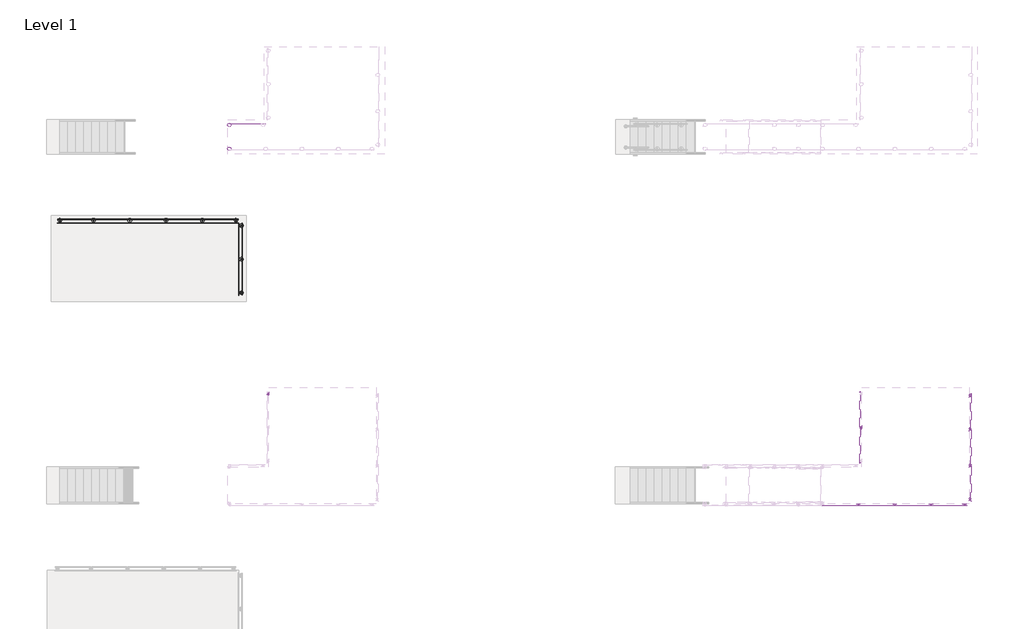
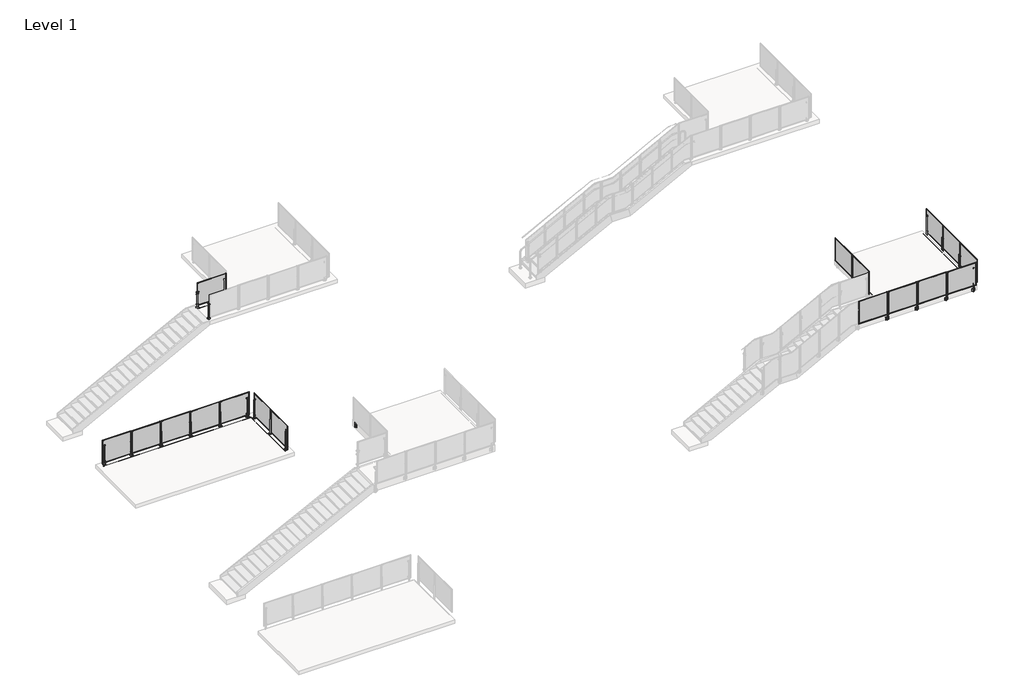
# One storey, part 21 of 28: 10 proxies, 6 railings.
"""IFC4 building model written with IfcOpenShell, lengths in millimetres."""

from ifc_helpers import new_model, si_unit, point, frame, frame_2d, origin, origin_with_axes, place, context, project, spatial, polyline, circle_curve, trimmed, segment, composite_curve, outline, extrude, transform, mapped, element, save
from components import building_element_proxy_d74b3768, building_element_proxy_f0dd287b, building_element_proxy_bc1e0d3e, building_element_proxy_bd17ef1f, building_element_proxy_5b57b0b3, building_element_proxy_1b4bb758

model = new_model("IFC4")

# Units and contexts
model_context = context("Model", 3, world=origin())
ifc_project = project(units=[si_unit("LENGTHUNIT", "METRE", prefix="MILLI")], contexts=[model_context])

# Site, building, storey
site = spatial("IfcSite", under=ifc_project)
building = spatial("IfcBuilding", under=site)
storey = spatial("IfcBuildingStorey", under=building, Name="Level 1", Elevation=0.0)

# Proxies
placement = place(None, origin())
building_element_proxy_shape = building_element_proxy_d74b3768(model_context)
element("IfcBuildingElementProxy", 1, Name="Baluster-End-Post-VIVA-STRUC-Top Mount : CORED INTO CONCRETE_TOP MOUNT STRUC_STRAIGHT", ObjectType="Baluster-End-Post-VIVA-STRUC-Top Mount : CORED INTO CONCRETE_TOP MOUNT STRUC_STRAIGHT", at=placement, inside=storey, context=model_context, shape_type="MappedRepresentation", body=[
    mapped(building_element_proxy_shape, transform((-32689.643347, 5915.4866335, -0.508), x_axis=(-1.0, 0.0, 0.0), y_axis=(0.0, -1.0, 0.0), z_axis=(0.0, 0.0, 1.0))),
])
building_element_proxy_2_shape = building_element_proxy_f0dd287b(model_context)
element("IfcBuildingElementProxy", 2, Name="Baluster-End-Post-VIVA-STRUC-Top Mount : WELDED Fascia MOUNT STRUC_STRAIGHT", ObjectType="Baluster-End-Post-VIVA-STRUC-Top Mount : WELDED Fascia MOUNT STRUC_STRAIGHT", at=placement, inside=storey, context=model_context, shape_type="MappedRepresentation", body=[
    mapped(building_element_proxy_2_shape, transform((-31563.4049728, 33.6273492, 3047.492), x_axis=(0.0, -1.0, 0.0), y_axis=(1.0, 0.0, 0.0), z_axis=(0.0, 0.0, 1.0))),
])
element("IfcBuildingElementProxy", 3, Name="Baluster-End-Post-VIVA-STRUC-Top Mount : WELDED Fascia MOUNT STRUC_STRAIGHT", ObjectType="Baluster-End-Post-VIVA-STRUC-Top Mount : WELDED Fascia MOUNT STRUC_STRAIGHT", at=placement, inside=storey, context=model_context, shape_type="MappedRepresentation", body=[
    mapped(building_element_proxy_2_shape, transform((-7225.1100036, -3846.7140523, 3047.492), x_axis=(0.0, 1.0, 0.0), y_axis=(-1.0, 0.0, 0.0), z_axis=(0.0, 0.0, 1.0))),
])
building_element_proxy_3_shape = building_element_proxy_bc1e0d3e(model_context)
element("IfcBuildingElementProxy", 4, Name="Baluster-End-Post-VIVA-STRUC-Top Mount : CORED INTO CONCRETE_TOP MOUNT STRUC_STRAIGHT", ObjectType="Baluster-End-Post-VIVA-STRUC-Top Mount : CORED INTO CONCRETE_TOP MOUNT STRUC_STRAIGHT", at=placement, inside=storey, context=model_context, shape_type="MappedRepresentation", body=[
    mapped(building_element_proxy_3_shape, transform((-32693.4518242, 5919.2344262, -0.508), x_axis=(0.0, 1.0, 0.0), y_axis=(-1.0, 0.0, 0.0), z_axis=(0.0, 0.0, 1.0))),
])
element("IfcBuildingElementProxy", 5, Name="Baluster-End-Post-VIVA-STRUC-Top Mount : CORED INTO CONCRETE_TOP MOUNT STRUC_STRAIGHT", ObjectType="Baluster-End-Post-VIVA-STRUC-Top Mount : CORED INTO CONCRETE_TOP MOUNT STRUC_STRAIGHT", at=placement, inside=storey, context=model_context, shape_type="MappedRepresentation", body=[
    mapped(building_element_proxy_shape, transform((-32693.4518242, 3379.2344262, -0.508), x_axis=(0.0, 1.0, 0.0), y_axis=(-1.0, 0.0, 0.0), z_axis=(0.0, 0.0, 1.0))),
])
element("IfcBuildingElementProxy", 6, Name="Baluster-End-Post-VIVA-STRUC-Top Mount : CORED INTO CONCRETE_TOP MOUNT STRUC_STRAIGHT", ObjectType="Baluster-End-Post-VIVA-STRUC-Top Mount : CORED INTO CONCRETE_TOP MOUNT STRUC_STRAIGHT", at=placement, inside=storey, context=model_context, shape_type="MappedRepresentation", body=[
    mapped(building_element_proxy_3_shape, transform((-39039.643347, 5915.4866335, -0.508), x_axis=(-1.0, 0.0, 0.0), y_axis=(0.0, -1.0, 0.0), z_axis=(0.0, 0.0, 1.0))),
])
building_element_proxy_4_shape = building_element_proxy_bd17ef1f(model_context)
element("IfcBuildingElementProxy", 7, Name="Baluster-End-Post-VIVA-STRUC-Top Mount : WELDED Fascia MOUNT STRUC_STRAIGHT", ObjectType="Baluster-End-Post-VIVA-STRUC-Top Mount : WELDED Fascia MOUNT STRUC_STRAIGHT", at=placement, inside=storey, context=model_context, shape_type="MappedRepresentation", body=[
    mapped(building_element_proxy_4_shape, transform((-7225.1100036, -36.7140523, 3047.492), x_axis=(0.0, 1.0, 0.0), y_axis=(-1.0, 0.0, 0.0), z_axis=(0.0, 0.0, 1.0))),
])
element("IfcBuildingElementProxy", 8, Name="Baluster-End-Post-VIVA-STRUC-Top Mount : WELDED Fascia MOUNT STRUC_STRAIGHT", ObjectType="Baluster-End-Post-VIVA-STRUC-Top Mount : WELDED Fascia MOUNT STRUC_STRAIGHT", at=placement, inside=storey, context=model_context, shape_type="MappedRepresentation", body=[
    mapped(building_element_proxy_4_shape, transform((-7209.7434339, -3841.1050112, 3047.492), x_axis=(1.0, 0.0, 0.0), y_axis=(0.0, 1.0, 0.0), z_axis=(0.0, 0.0, 1.0))),
])
building_element_proxy_5_shape = building_element_proxy_5b57b0b3(model_context)
element("IfcBuildingElementProxy", 9, Name="Baluster-End-Post-VIVA-STRUC-Top Mount-Stair : CORED INTO CONCRETE_TOP MOUNT STRUC_STAIR", ObjectType="Baluster-End-Post-VIVA-STRUC-Top Mount-Stair : CORED INTO CONCRETE_TOP MOUNT STRUC_STAIR", at=placement, inside=storey, context=model_context, shape_type="MappedRepresentation", body=[
    mapped(building_element_proxy_5_shape, transform((-33016.8813244, 8604.7301722, 3556.635), x_axis=(1.0, 0.0, 0.0), y_axis=(0.0, 1.0, 0.0), z_axis=(0.0, 0.0, 1.0))),
])
building_element_proxy_6_shape = building_element_proxy_1b4bb758(model_context)
element("IfcBuildingElementProxy", 10, Name="Baluster-End-Post-VIVA-STRUC-Top Mount-Stair : CORED INTO CONCRETE_TOP MOUNT STRUC_STAIR", ObjectType="Baluster-End-Post-VIVA-STRUC-Top Mount-Stair : CORED INTO CONCRETE_TOP MOUNT STRUC_STAIR", at=placement, inside=storey, context=model_context, shape_type="MappedRepresentation", body=[
    mapped(building_element_proxy_6_shape, transform((-33016.8813244, 9247.6573722, 3556.635), x_axis=(-1.0, 0.0, 0.0), y_axis=(0.0, -1.0, 0.0), z_axis=(0.0, 0.0, 1.0))),
])

# Railings
element("IfcRailing", 11, ObjectType="Metal-Panel-VIVA-STRUC-Top_Core-Straight", at=placement, inside=storey, context=model_context, shape_type="SweptSolid", body=[
    extrude(outline(composite_curve([segment(trimmed(circle_curve(frame_2d((-0.254, -32693.4518242)), 0.254), [point((-0.254, -32693.7058242))], [point((-0.254, -32693.1978242))], False, "CARTESIAN"), True, "CONTINUOUS"), segment(trimmed(circle_curve(frame_2d((-0.254, -32693.4518242)), 0.254), [point((-0.254, -32693.1978242))], [point((-0.254, -32693.7058242))], False, "CARTESIAN"), True, "CONTINUOUS")], self_intersect=False)), frame((0.0, 3379.2344262, 0.0), z_axis=(0.0, 1.0, 0.0), x_axis=(0.0, 0.0, 1.0)), (0.0, 0.0, 1.0), 2540.0),
    extrude(outline(composite_curve([segment(trimmed(circle_curve(frame_2d((-0.254, -32693.4518242)), 0.254), [point((-0.254, -32693.7058242))], [point((-0.254, -32693.1978242))], False, "CARTESIAN"), True, "CONTINUOUS"), segment(trimmed(circle_curve(frame_2d((-0.254, -32693.4518242)), 0.254), [point((-0.254, -32693.1978242))], [point((-0.254, -32693.7058242))], False, "CARTESIAN"), True, "CONTINUOUS")], self_intersect=False)), frame((0.0, 3379.2344262, 0.0), z_axis=(0.0, 1.0, 0.0), x_axis=(0.0, 0.0, 1.0)), (0.0, 0.0, 1.0), 2540.0),
    extrude(outline(polyline([(-32566.6028242, 4608.4079693), (-32566.6028242, 3420.0608831), (-32569.6028242, 3420.0608831), (-32569.6028242, 4608.4079693), (-32566.6028242, 4608.4079693)])), frame((0.0, 0.0, 76.1959569), z_axis=(0.0, 0.0, 1.0), x_axis=(1.0, 0.0, 0.0)), (0.0, 0.0, 1.0), 990.5826861),
    extrude(outline(polyline([(4633.8079693, 1092.1786431), (4633.8079693, 50.7959569), (3394.6608831, 50.7959569), (3394.6608831, 1092.1786431), (4633.8079693, 1092.1786431)]), holes=[polyline([(4608.4079693, 76.1959569), (4608.4079693, 1066.7786431), (3420.0608831, 1066.7786431), (3420.0608831, 76.1959569), (4608.4079693, 76.1959569)])]), frame((-32569.6028242, 0.0, 0.0), z_axis=(1.0, 0.0, 0.0), x_axis=(0.0, 1.0, 0.0)), (0.0, 0.0, 1.0), 9.525),
    extrude(outline(polyline([(-32576.7134242, 4687.3351454), (-32569.6014242, 4687.3351454), (-32569.6014242, 4611.133707), (-32576.7134242, 4611.133707), (-32576.7134242, 4687.3351454)])), frame((0.0, 0.0, 569.976), z_axis=(0.0, 0.0, 1.0), x_axis=(1.0, 0.0, 0.0)), (0.0, 0.0, 1.0), 50.8),
    extrude(outline(polyline([(-32576.7134242, 4687.3351454), (-32569.6014242, 4687.3351454), (-32569.6014242, 4611.133707), (-32576.7134242, 4611.133707), (-32576.7134242, 4687.3351454)])), frame((0.0, 0.0, 112.776), z_axis=(0.0, 0.0, 1.0), x_axis=(1.0, 0.0, 0.0)), (0.0, 0.0, 1.0), 50.8),
    extrude(outline(composite_curve([segment(trimmed(circle_curve(frame_2d((-32598.9384242, 4649.2344262)), 65.8876), [point((-32533.0508242, 4649.2344262))], [point((-32664.8260242, 4649.2344262))], False, "CARTESIAN"), True, "CONTINUOUS"), segment(trimmed(circle_curve(frame_2d((-32598.9384242, 4649.2344262)), 65.8876), [point((-32664.8260242, 4649.2344262))], [point((-32533.0508242, 4649.2344262))], False, "CARTESIAN"), True, "CONTINUOUS")], self_intersect=False)), origin_with_axes(), (0.0, 0.0, 1.0), 2.9821299),
    extrude(outline(polyline([(-32621.1634242, 4657.1740178), (-32576.7134242, 4657.1740178), (-32576.7134242, 4641.2948345), (-32621.1634242, 4641.2948345), (-32621.1634242, 4657.1740178)])), frame((0.0, 0.0, -101.6), z_axis=(0.0, 0.0, 1.0), x_axis=(1.0, 0.0, 0.0)), (0.0, 0.0, 1.0), 762.0),
    extrude(outline(polyline([(-32566.6028242, 5878.4079693), (-32566.6028242, 4690.0608831), (-32569.6028242, 4690.0608831), (-32569.6028242, 5878.4079693), (-32566.6028242, 5878.4079693)])), frame((0.0, 0.0, 76.1959569), z_axis=(0.0, 0.0, 1.0), x_axis=(1.0, 0.0, 0.0)), (0.0, 0.0, 1.0), 990.5826861),
    extrude(outline(polyline([(5903.8079693, 1092.1786431), (5903.8079693, 50.7959569), (4664.6608831, 50.7959569), (4664.6608831, 1092.1786431), (5903.8079693, 1092.1786431)]), holes=[polyline([(5878.4079693, 76.1959569), (5878.4079693, 1066.7786431), (4690.0608831, 1066.7786431), (4690.0608831, 76.1959569), (5878.4079693, 76.1959569)])]), frame((-32569.6028242, 0.0, 0.0), z_axis=(1.0, 0.0, 0.0), x_axis=(0.0, 1.0, 0.0)), (0.0, 0.0, 1.0), 9.525),
])
element("IfcRailing", 12, ObjectType="Metal-Panel-VIVA-STRUC-Top_Core-Straight", at=placement, inside=storey, context=model_context, shape_type="SweptSolid", body=[
    extrude(outline(composite_curve([segment(trimmed(circle_curve(frame_2d((5915.4866335, -0.254)), 0.254), [point((5915.2326335, -0.254))], [point((5915.7406335, -0.254))], False, "CARTESIAN"), True, "CONTINUOUS"), segment(trimmed(circle_curve(frame_2d((5915.4866335, -0.254)), 0.254), [point((5915.7406335, -0.254))], [point((5915.2326335, -0.254))], False, "CARTESIAN"), True, "CONTINUOUS")], self_intersect=False)), frame((-39039.643347, 0.0, 0.0), z_axis=(1.0, 0.0, 0.0), x_axis=(0.0, 1.0, 0.0)), (0.0, 0.0, 1.0), 6350.0),
    extrude(outline(composite_curve([segment(trimmed(circle_curve(frame_2d((5915.4866335, -0.254)), 0.254), [point((5915.2326335, -0.254))], [point((5915.7406335, -0.254))], False, "CARTESIAN"), True, "CONTINUOUS"), segment(trimmed(circle_curve(frame_2d((5915.4866335, -0.254)), 0.254), [point((5915.7406335, -0.254))], [point((5915.2326335, -0.254))], False, "CARTESIAN"), True, "CONTINUOUS")], self_intersect=False)), frame((-39039.643347, 0.0, 0.0), z_axis=(1.0, 0.0, 0.0), x_axis=(0.0, 1.0, 0.0)), (0.0, 0.0, 1.0), 6350.0),
    extrude(outline(polyline([(-33918.8168901, 6042.3356335), (-32730.4698039, 6042.3356335), (-32730.4698039, 6039.3356335), (-33918.8168901, 6039.3356335), (-33918.8168901, 6042.3356335)])), frame((0.0, 0.0, 76.1959569), z_axis=(0.0, 0.0, 1.0), x_axis=(1.0, 0.0, 0.0)), (0.0, 0.0, 1.0), 990.5826861),
    extrude(outline(polyline([(1092.1786431, -33944.2168901), (50.7959569, -33944.2168901), (50.7959569, -32705.0698039), (1092.1786431, -32705.0698039), (1092.1786431, -33944.2168901)]), holes=[polyline([(76.1959569, -33918.8168901), (1066.7786431, -33918.8168901), (1066.7786431, -32730.4698039), (76.1959569, -32730.4698039), (76.1959569, -33918.8168901)])]), frame((0.0, 6039.3356335, 0.0), z_axis=(0.0, 1.0, 0.0), x_axis=(0.0, 0.0, 1.0)), (0.0, 0.0, 1.0), 9.525),
    extrude(outline(polyline([(-33997.7440663, 6032.2250335), (-33997.7440663, 6039.3370335), (-33921.5426278, 6039.3370335), (-33921.5426278, 6032.2250335), (-33997.7440663, 6032.2250335)])), frame((0.0, 0.0, 569.976), z_axis=(0.0, 0.0, 1.0), x_axis=(1.0, 0.0, 0.0)), (0.0, 0.0, 1.0), 50.8),
    extrude(outline(polyline([(-33997.7440663, 6032.2250335), (-33997.7440663, 6039.3370335), (-33921.5426278, 6039.3370335), (-33921.5426278, 6032.2250335), (-33997.7440663, 6032.2250335)])), frame((0.0, 0.0, 112.776), z_axis=(0.0, 0.0, 1.0), x_axis=(1.0, 0.0, 0.0)), (0.0, 0.0, 1.0), 50.8),
    extrude(outline(composite_curve([segment(trimmed(circle_curve(frame_2d((-33959.643347, 6010.0000335)), 65.8876), [point((-33959.643347, 6075.8876335))], [point((-33959.643347, 5944.1124335))], False, "CARTESIAN"), True, "CONTINUOUS"), segment(trimmed(circle_curve(frame_2d((-33959.643347, 6010.0000335)), 65.8876), [point((-33959.643347, 5944.1124335))], [point((-33959.643347, 6075.8876335))], False, "CARTESIAN"), True, "CONTINUOUS")], self_intersect=False)), origin_with_axes(), (0.0, 0.0, 1.0), 2.9821299),
    extrude(outline(polyline([(-33967.5829387, 5987.7750335), (-33967.5829387, 6032.2250335), (-33951.7037554, 6032.2250335), (-33951.7037554, 5987.7750335), (-33967.5829387, 5987.7750335)])), frame((0.0, 0.0, -101.6), z_axis=(0.0, 0.0, 1.0), x_axis=(1.0, 0.0, 0.0)), (0.0, 0.0, 1.0), 762.0),
    extrude(outline(polyline([(-35188.8168901, 6042.3356335), (-34000.4698039, 6042.3356335), (-34000.4698039, 6039.3356335), (-35188.8168901, 6039.3356335), (-35188.8168901, 6042.3356335)])), frame((0.0, 0.0, 76.1959569), z_axis=(0.0, 0.0, 1.0), x_axis=(1.0, 0.0, 0.0)), (0.0, 0.0, 1.0), 990.5826861),
    extrude(outline(polyline([(1092.1786431, -35214.2168901), (50.7959569, -35214.2168901), (50.7959569, -33975.0698039), (1092.1786431, -33975.0698039), (1092.1786431, -35214.2168901)]), holes=[polyline([(76.1959569, -35188.8168901), (1066.7786431, -35188.8168901), (1066.7786431, -34000.4698039), (76.1959569, -34000.4698039), (76.1959569, -35188.8168901)])]), frame((0.0, 6039.3356335, 0.0), z_axis=(0.0, 1.0, 0.0), x_axis=(0.0, 0.0, 1.0)), (0.0, 0.0, 1.0), 9.525),
    extrude(outline(polyline([(-35267.7440663, 6032.2250335), (-35267.7440663, 6039.3370335), (-35191.5426278, 6039.3370335), (-35191.5426278, 6032.2250335), (-35267.7440663, 6032.2250335)])), frame((0.0, 0.0, 569.976), z_axis=(0.0, 0.0, 1.0), x_axis=(1.0, 0.0, 0.0)), (0.0, 0.0, 1.0), 50.8),
    extrude(outline(polyline([(-35267.7440663, 6032.2250335), (-35267.7440663, 6039.3370335), (-35191.5426278, 6039.3370335), (-35191.5426278, 6032.2250335), (-35267.7440663, 6032.2250335)])), frame((0.0, 0.0, 112.776), z_axis=(0.0, 0.0, 1.0), x_axis=(1.0, 0.0, 0.0)), (0.0, 0.0, 1.0), 50.8),
    extrude(outline(composite_curve([segment(trimmed(circle_curve(frame_2d((-35229.643347, 6010.0000335)), 65.8876), [point((-35229.643347, 6075.8876335))], [point((-35229.643347, 5944.1124335))], False, "CARTESIAN"), True, "CONTINUOUS"), segment(trimmed(circle_curve(frame_2d((-35229.643347, 6010.0000335)), 65.8876), [point((-35229.643347, 5944.1124335))], [point((-35229.643347, 6075.8876335))], False, "CARTESIAN"), True, "CONTINUOUS")], self_intersect=False)), origin_with_axes(), (0.0, 0.0, 1.0), 2.9821299),
    extrude(outline(polyline([(-35237.5829387, 5987.7750335), (-35237.5829387, 6032.2250335), (-35221.7037554, 6032.2250335), (-35221.7037554, 5987.7750335), (-35237.5829387, 5987.7750335)])), frame((0.0, 0.0, -101.6), z_axis=(0.0, 0.0, 1.0), x_axis=(1.0, 0.0, 0.0)), (0.0, 0.0, 1.0), 762.0),
    extrude(outline(polyline([(-36458.8168901, 6042.3356335), (-35270.4698039, 6042.3356335), (-35270.4698039, 6039.3356335), (-36458.8168901, 6039.3356335), (-36458.8168901, 6042.3356335)])), frame((0.0, 0.0, 76.1959569), z_axis=(0.0, 0.0, 1.0), x_axis=(1.0, 0.0, 0.0)), (0.0, 0.0, 1.0), 990.5826861),
    extrude(outline(polyline([(1092.1786431, -36484.2168901), (50.7959569, -36484.2168901), (50.7959569, -35245.0698039), (1092.1786431, -35245.0698039), (1092.1786431, -36484.2168901)]), holes=[polyline([(76.1959569, -36458.8168901), (1066.7786431, -36458.8168901), (1066.7786431, -35270.4698039), (76.1959569, -35270.4698039), (76.1959569, -36458.8168901)])]), frame((0.0, 6039.3356335, 0.0), z_axis=(0.0, 1.0, 0.0), x_axis=(0.0, 0.0, 1.0)), (0.0, 0.0, 1.0), 9.525),
    extrude(outline(polyline([(-36537.7440663, 6032.2250335), (-36537.7440663, 6039.3370335), (-36461.5426278, 6039.3370335), (-36461.5426278, 6032.2250335), (-36537.7440663, 6032.2250335)])), frame((0.0, 0.0, 569.976), z_axis=(0.0, 0.0, 1.0), x_axis=(1.0, 0.0, 0.0)), (0.0, 0.0, 1.0), 50.8),
    extrude(outline(polyline([(-36537.7440663, 6032.2250335), (-36537.7440663, 6039.3370335), (-36461.5426278, 6039.3370335), (-36461.5426278, 6032.2250335), (-36537.7440663, 6032.2250335)])), frame((0.0, 0.0, 112.776), z_axis=(0.0, 0.0, 1.0), x_axis=(1.0, 0.0, 0.0)), (0.0, 0.0, 1.0), 50.8),
    extrude(outline(composite_curve([segment(trimmed(circle_curve(frame_2d((-36499.643347, 6010.0000335)), 65.8876), [point((-36499.643347, 6075.8876335))], [point((-36499.643347, 5944.1124335))], False, "CARTESIAN"), True, "CONTINUOUS"), segment(trimmed(circle_curve(frame_2d((-36499.643347, 6010.0000335)), 65.8876), [point((-36499.643347, 5944.1124335))], [point((-36499.643347, 6075.8876335))], False, "CARTESIAN"), True, "CONTINUOUS")], self_intersect=False)), origin_with_axes(), (0.0, 0.0, 1.0), 2.9821299),
    extrude(outline(polyline([(-36507.5829387, 5987.7750335), (-36507.5829387, 6032.2250335), (-36491.7037554, 6032.2250335), (-36491.7037554, 5987.7750335), (-36507.5829387, 5987.7750335)])), frame((0.0, 0.0, -101.6), z_axis=(0.0, 0.0, 1.0), x_axis=(1.0, 0.0, 0.0)), (0.0, 0.0, 1.0), 762.0),
    extrude(outline(polyline([(-37728.8168901, 6042.3356335), (-36540.4698039, 6042.3356335), (-36540.4698039, 6039.3356335), (-37728.8168901, 6039.3356335), (-37728.8168901, 6042.3356335)])), frame((0.0, 0.0, 76.1959569), z_axis=(0.0, 0.0, 1.0), x_axis=(1.0, 0.0, 0.0)), (0.0, 0.0, 1.0), 990.5826861),
    extrude(outline(polyline([(1092.1786431, -37754.2168901), (50.7959569, -37754.2168901), (50.7959569, -36515.0698039), (1092.1786431, -36515.0698039), (1092.1786431, -37754.2168901)]), holes=[polyline([(76.1959569, -37728.8168901), (1066.7786431, -37728.8168901), (1066.7786431, -36540.4698039), (76.1959569, -36540.4698039), (76.1959569, -37728.8168901)])]), frame((0.0, 6039.3356335, 0.0), z_axis=(0.0, 1.0, 0.0), x_axis=(0.0, 0.0, 1.0)), (0.0, 0.0, 1.0), 9.525),
    extrude(outline(polyline([(-37807.7440663, 6032.2250335), (-37807.7440663, 6039.3370335), (-37731.5426278, 6039.3370335), (-37731.5426278, 6032.2250335), (-37807.7440663, 6032.2250335)])), frame((0.0, 0.0, 569.976), z_axis=(0.0, 0.0, 1.0), x_axis=(1.0, 0.0, 0.0)), (0.0, 0.0, 1.0), 50.8),
    extrude(outline(polyline([(-37807.7440663, 6032.2250335), (-37807.7440663, 6039.3370335), (-37731.5426278, 6039.3370335), (-37731.5426278, 6032.2250335), (-37807.7440663, 6032.2250335)])), frame((0.0, 0.0, 112.776), z_axis=(0.0, 0.0, 1.0), x_axis=(1.0, 0.0, 0.0)), (0.0, 0.0, 1.0), 50.8),
    extrude(outline(composite_curve([segment(trimmed(circle_curve(frame_2d((-37769.643347, 6010.0000335)), 65.8876), [point((-37769.643347, 6075.8876335))], [point((-37769.643347, 5944.1124335))], False, "CARTESIAN"), True, "CONTINUOUS"), segment(trimmed(circle_curve(frame_2d((-37769.643347, 6010.0000335)), 65.8876), [point((-37769.643347, 5944.1124335))], [point((-37769.643347, 6075.8876335))], False, "CARTESIAN"), True, "CONTINUOUS")], self_intersect=False)), origin_with_axes(), (0.0, 0.0, 1.0), 2.9821299),
    extrude(outline(polyline([(-37777.5829387, 5987.7750335), (-37777.5829387, 6032.2250335), (-37761.7037554, 6032.2250335), (-37761.7037554, 5987.7750335), (-37777.5829387, 5987.7750335)])), frame((0.0, 0.0, -101.6), z_axis=(0.0, 0.0, 1.0), x_axis=(1.0, 0.0, 0.0)), (0.0, 0.0, 1.0), 762.0),
    extrude(outline(polyline([(-38998.8168901, 6042.3356335), (-37810.4698039, 6042.3356335), (-37810.4698039, 6039.3356335), (-38998.8168901, 6039.3356335), (-38998.8168901, 6042.3356335)])), frame((0.0, 0.0, 76.1959569), z_axis=(0.0, 0.0, 1.0), x_axis=(1.0, 0.0, 0.0)), (0.0, 0.0, 1.0), 990.5826861),
    extrude(outline(polyline([(1092.1786431, -39024.2168901), (50.7959569, -39024.2168901), (50.7959569, -37785.0698039), (1092.1786431, -37785.0698039), (1092.1786431, -39024.2168901)]), holes=[polyline([(76.1959569, -38998.8168901), (1066.7786431, -38998.8168901), (1066.7786431, -37810.4698039), (76.1959569, -37810.4698039), (76.1959569, -38998.8168901)])]), frame((0.0, 6039.3356335, 0.0), z_axis=(0.0, 1.0, 0.0), x_axis=(0.0, 0.0, 1.0)), (0.0, 0.0, 1.0), 9.525),
])
element("IfcRailing", 13, ObjectType="Metal-Panel-VIVA-STRUC-Top_Core-Straight", at=placement, inside=storey, context=model_context, shape_type="SweptSolid", body=[
    extrude(outline(composite_curve([segment(trimmed(circle_curve(frame_2d((9250.4962374, 3047.746)), 0.254), [point((9250.2422374, 3047.746))], [point((9250.7502374, 3047.746))], False, "CARTESIAN"), True, "CONTINUOUS"), segment(trimmed(circle_curve(frame_2d((9250.4962374, 3047.746)), 0.254), [point((9250.7502374, 3047.746))], [point((9250.2422374, 3047.746))], False, "CARTESIAN"), True, "CONTINUOUS")], self_intersect=False)), frame((-33016.8813244, 0.0, 0.0), z_axis=(1.0, 0.0, 0.0), x_axis=(0.0, 1.0, 0.0)), (0.0, 0.0, 1.0), 1270.0),
    extrude(outline(composite_curve([segment(trimmed(circle_curve(frame_2d((9250.4962374, 3047.746)), 0.254), [point((9250.2422374, 3047.746))], [point((9250.7502374, 3047.746))], False, "CARTESIAN"), True, "CONTINUOUS"), segment(trimmed(circle_curve(frame_2d((9250.4962374, 3047.746)), 0.254), [point((9250.7502374, 3047.746))], [point((9250.2422374, 3047.746))], False, "CARTESIAN"), True, "CONTINUOUS")], self_intersect=False)), frame((-33016.8813244, 0.0, 0.0), z_axis=(1.0, 0.0, 0.0), x_axis=(0.0, 1.0, 0.0)), (0.0, 0.0, 1.0), 1270.0),
    extrude(outline(polyline([(-32976.0548675, 9377.3452374), (-31787.7077814, 9377.3452374), (-31787.7077814, 9374.3452374), (-32976.0548675, 9374.3452374), (-32976.0548675, 9377.3452374)])), frame((0.0, 0.0, 3124.1959569), z_axis=(0.0, 0.0, 1.0), x_axis=(1.0, 0.0, 0.0)), (0.0, 0.0, 1.0), 990.5826861),
    extrude(outline(polyline([(4140.1786431, -33001.4548675), (3098.7959569, -33001.4548675), (3098.7959569, -31762.3077814), (4140.1786431, -31762.3077814), (4140.1786431, -33001.4548675)]), holes=[polyline([(3124.1959569, -32976.0548675), (4114.7786431, -32976.0548675), (4114.7786431, -31787.7077814), (3124.1959569, -31787.7077814), (3124.1959569, -32976.0548675)])]), frame((0.0, 9374.3452374, 0.0), z_axis=(0.0, 1.0, 0.0), x_axis=(0.0, 0.0, 1.0)), (0.0, 0.0, 1.0), 9.525),
])
element("IfcRailing", 14, ObjectType="Metal-Panel-VIVA-STRUC-Fascia-Straight", at=placement, inside=storey, context=model_context, shape_type="SweptSolid", body=[
    extrude(outline(composite_curve([segment(trimmed(circle_curve(frame_2d((-3841.1050112, 3047.746)), 0.254), [point((-3841.3590112, 3047.746))], [point((-3840.8510112, 3047.746))], False, "CARTESIAN"), True, "CONTINUOUS"), segment(trimmed(circle_curve(frame_2d((-3841.1050112, 3047.746)), 0.254), [point((-3840.8510112, 3047.746))], [point((-3841.3590112, 3047.746))], False, "CARTESIAN"), True, "CONTINUOUS")], self_intersect=False)), frame((-12289.7434339, 0.0, 0.0), z_axis=(1.0, 0.0, 0.0), x_axis=(0.0, 1.0, 0.0)), (0.0, 0.0, 1.0), 5080.0),
    extrude(outline(composite_curve([segment(trimmed(circle_curve(frame_2d((-3841.1050112, 3047.746)), 0.254), [point((-3841.3590112, 3047.746))], [point((-3840.8510112, 3047.746))], False, "CARTESIAN"), True, "CONTINUOUS"), segment(trimmed(circle_curve(frame_2d((-3841.1050112, 3047.746)), 0.254), [point((-3840.8510112, 3047.746))], [point((-3841.3590112, 3047.746))], False, "CARTESIAN"), True, "CONTINUOUS")], self_intersect=False)), frame((-12289.7434339, 0.0, 0.0), z_axis=(1.0, 0.0, 0.0), x_axis=(0.0, 1.0, 0.0)), (0.0, 0.0, 1.0), 5080.0),
    extrude(outline(polyline([(-8438.9169769, -3970.7988112), (-8438.9169769, -3967.7988112), (-7250.5698908, -3967.7988112), (-7250.5698908, -3970.7988112), (-8438.9169769, -3970.7988112)])), frame((0.0, 0.0, 3124.1959569), z_axis=(0.0, 0.0, 1.0), x_axis=(1.0, 0.0, 0.0)), (0.0, 0.0, 1.0), 990.5826861),
    extrude(outline(polyline([(3098.7959569, -8464.3169769), (3098.7959569, -7225.1698908), (4140.1786431, -7225.1698908), (4140.1786431, -8464.3169769), (3098.7959569, -8464.3169769)]), holes=[polyline([(4114.7786431, -8438.9169769), (4114.7786431, -7250.5698908), (3124.1959569, -7250.5698908), (3124.1959569, -8438.9169769), (4114.7786431, -8438.9169769)])]), frame((0.0, -3977.3238112, 0.0), z_axis=(0.0, 1.0, 0.0), x_axis=(0.0, 0.0, 1.0)), (0.0, 0.0, 1.0), 9.525),
    extrude(outline(polyline([(-8517.8441531, -3960.6882112), (-8441.6427146, -3960.6882112), (-8441.6427146, -3967.8002112), (-8517.8441531, -3967.8002112), (-8517.8441531, -3960.6882112)])), frame((0.0, 0.0, 3529.076), z_axis=(0.0, 0.0, 1.0), x_axis=(1.0, 0.0, 0.0)), (0.0, 0.0, 1.0), 50.8),
    extrude(outline(polyline([(-8517.8441531, -3960.6882112), (-8441.6427146, -3960.6882112), (-8441.6427146, -3967.8002112), (-8517.8441531, -3967.8002112), (-8517.8441531, -3960.6882112)])), frame((0.0, 0.0, 3071.876), z_axis=(0.0, 0.0, 1.0), x_axis=(1.0, 0.0, 0.0)), (0.0, 0.0, 1.0), 50.8),
    extrude(outline(polyline([(-8471.8080255, -3954.8462112), (-8471.8080255, -3912.9362112), (-8416.247504, -3912.9362112), (-8416.247504, -3921.0642112), (-8463.8070255, -3921.0642112), (-8463.8070255, -3954.8462112), (-8471.8080255, -3954.8462112)])), frame((0.0, 0.0, 2832.1), z_axis=(0.0, 0.0, 1.0), x_axis=(1.0, 0.0, 0.0)), (0.0, 0.0, 1.0), 127.0),
    extrude(outline(polyline([(-8487.6830255, -3954.8462112), (-8495.6840255, -3954.8462112), (-8495.6840255, -3921.0642112), (-8543.2435471, -3921.0642112), (-8543.2435471, -3912.9362112), (-8487.6830255, -3912.9362112), (-8487.6830255, -3954.8462112)])), frame((0.0, 0.0, 2832.1), z_axis=(0.0, 0.0, 1.0), x_axis=(1.0, 0.0, 0.0)), (0.0, 0.0, 1.0), 127.0),
    extrude(outline(polyline([(-8487.6830255, -3916.2382112), (-8471.8038422, -3916.2382112), (-8471.8038422, -3960.6882112), (-8487.6830255, -3960.6882112), (-8487.6830255, -3916.2382112)])), frame((0.0, 0.0, 2832.1), z_axis=(0.0, 0.0, 1.0), x_axis=(1.0, 0.0, 0.0)), (0.0, 0.0, 1.0), 787.4),
    extrude(outline(polyline([(-9708.9169769, -3970.7988112), (-9708.9169769, -3967.7988112), (-8520.5698908, -3967.7988112), (-8520.5698908, -3970.7988112), (-9708.9169769, -3970.7988112)])), frame((0.0, 0.0, 3124.1959569), z_axis=(0.0, 0.0, 1.0), x_axis=(1.0, 0.0, 0.0)), (0.0, 0.0, 1.0), 990.5826861),
    extrude(outline(polyline([(3098.7959569, -9734.3169769), (3098.7959569, -8495.1698908), (4140.1786431, -8495.1698908), (4140.1786431, -9734.3169769), (3098.7959569, -9734.3169769)]), holes=[polyline([(4114.7786431, -9708.9169769), (4114.7786431, -8520.5698908), (3124.1959569, -8520.5698908), (3124.1959569, -9708.9169769), (4114.7786431, -9708.9169769)])]), frame((0.0, -3977.3238112, 0.0), z_axis=(0.0, 1.0, 0.0), x_axis=(0.0, 0.0, 1.0)), (0.0, 0.0, 1.0), 9.525),
    extrude(outline(polyline([(-9787.8441531, -3960.6882112), (-9711.6427146, -3960.6882112), (-9711.6427146, -3967.8002112), (-9787.8441531, -3967.8002112), (-9787.8441531, -3960.6882112)])), frame((0.0, 0.0, 3529.076), z_axis=(0.0, 0.0, 1.0), x_axis=(1.0, 0.0, 0.0)), (0.0, 0.0, 1.0), 50.8),
    extrude(outline(polyline([(-9787.8441531, -3960.6882112), (-9711.6427146, -3960.6882112), (-9711.6427146, -3967.8002112), (-9787.8441531, -3967.8002112), (-9787.8441531, -3960.6882112)])), frame((0.0, 0.0, 3071.876), z_axis=(0.0, 0.0, 1.0), x_axis=(1.0, 0.0, 0.0)), (0.0, 0.0, 1.0), 50.8),
    extrude(outline(polyline([(-9741.8080255, -3954.8462112), (-9741.8080255, -3912.9362112), (-9686.247504, -3912.9362112), (-9686.247504, -3921.0642112), (-9733.8070255, -3921.0642112), (-9733.8070255, -3954.8462112), (-9741.8080255, -3954.8462112)])), frame((0.0, 0.0, 2832.1), z_axis=(0.0, 0.0, 1.0), x_axis=(1.0, 0.0, 0.0)), (0.0, 0.0, 1.0), 127.0),
    extrude(outline(polyline([(-9757.6830255, -3954.8462112), (-9765.6840255, -3954.8462112), (-9765.6840255, -3921.0642112), (-9813.2435471, -3921.0642112), (-9813.2435471, -3912.9362112), (-9757.6830255, -3912.9362112), (-9757.6830255, -3954.8462112)])), frame((0.0, 0.0, 2832.1), z_axis=(0.0, 0.0, 1.0), x_axis=(1.0, 0.0, 0.0)), (0.0, 0.0, 1.0), 127.0),
    extrude(outline(polyline([(-9757.6830255, -3916.2382112), (-9741.8038422, -3916.2382112), (-9741.8038422, -3960.6882112), (-9757.6830255, -3960.6882112), (-9757.6830255, -3916.2382112)])), frame((0.0, 0.0, 2832.1), z_axis=(0.0, 0.0, 1.0), x_axis=(1.0, 0.0, 0.0)), (0.0, 0.0, 1.0), 787.4),
    extrude(outline(polyline([(-10978.9169769, -3970.7988112), (-10978.9169769, -3967.7988112), (-9790.5698908, -3967.7988112), (-9790.5698908, -3970.7988112), (-10978.9169769, -3970.7988112)])), frame((0.0, 0.0, 3124.1959569), z_axis=(0.0, 0.0, 1.0), x_axis=(1.0, 0.0, 0.0)), (0.0, 0.0, 1.0), 990.5826861),
    extrude(outline(polyline([(3098.7959569, -11004.3169769), (3098.7959569, -9765.1698908), (4140.1786431, -9765.1698908), (4140.1786431, -11004.3169769), (3098.7959569, -11004.3169769)]), holes=[polyline([(4114.7786431, -10978.9169769), (4114.7786431, -9790.5698908), (3124.1959569, -9790.5698908), (3124.1959569, -10978.9169769), (4114.7786431, -10978.9169769)])]), frame((0.0, -3977.3238112, 0.0), z_axis=(0.0, 1.0, 0.0), x_axis=(0.0, 0.0, 1.0)), (0.0, 0.0, 1.0), 9.525),
    extrude(outline(polyline([(-11057.8441531, -3960.6882112), (-10981.6427146, -3960.6882112), (-10981.6427146, -3967.8002112), (-11057.8441531, -3967.8002112), (-11057.8441531, -3960.6882112)])), frame((0.0, 0.0, 3529.076), z_axis=(0.0, 0.0, 1.0), x_axis=(1.0, 0.0, 0.0)), (0.0, 0.0, 1.0), 50.8),
    extrude(outline(polyline([(-11057.8441531, -3960.6882112), (-10981.6427146, -3960.6882112), (-10981.6427146, -3967.8002112), (-11057.8441531, -3967.8002112), (-11057.8441531, -3960.6882112)])), frame((0.0, 0.0, 3071.876), z_axis=(0.0, 0.0, 1.0), x_axis=(1.0, 0.0, 0.0)), (0.0, 0.0, 1.0), 50.8),
    extrude(outline(polyline([(-11011.8080255, -3954.8462112), (-11011.8080255, -3912.9362112), (-10956.247504, -3912.9362112), (-10956.247504, -3921.0642112), (-11003.8070255, -3921.0642112), (-11003.8070255, -3954.8462112), (-11011.8080255, -3954.8462112)])), frame((0.0, 0.0, 2832.1), z_axis=(0.0, 0.0, 1.0), x_axis=(1.0, 0.0, 0.0)), (0.0, 0.0, 1.0), 127.0),
    extrude(outline(polyline([(-11027.6830255, -3954.8462112), (-11035.6840255, -3954.8462112), (-11035.6840255, -3921.0642112), (-11083.2435471, -3921.0642112), (-11083.2435471, -3912.9362112), (-11027.6830255, -3912.9362112), (-11027.6830255, -3954.8462112)])), frame((0.0, 0.0, 2832.1), z_axis=(0.0, 0.0, 1.0), x_axis=(1.0, 0.0, 0.0)), (0.0, 0.0, 1.0), 127.0),
    extrude(outline(polyline([(-11027.6830255, -3916.2382112), (-11011.8038422, -3916.2382112), (-11011.8038422, -3960.6882112), (-11027.6830255, -3960.6882112), (-11027.6830255, -3916.2382112)])), frame((0.0, 0.0, 2832.1), z_axis=(0.0, 0.0, 1.0), x_axis=(1.0, 0.0, 0.0)), (0.0, 0.0, 1.0), 787.4),
    extrude(outline(polyline([(-12248.9169769, -3970.7988112), (-12248.9169769, -3967.7988112), (-11060.5698908, -3967.7988112), (-11060.5698908, -3970.7988112), (-12248.9169769, -3970.7988112)])), frame((0.0, 0.0, 3124.1959569), z_axis=(0.0, 0.0, 1.0), x_axis=(1.0, 0.0, 0.0)), (0.0, 0.0, 1.0), 990.5826861),
    extrude(outline(polyline([(3098.7959569, -12274.3169769), (3098.7959569, -11035.1698908), (4140.1786431, -11035.1698908), (4140.1786431, -12274.3169769), (3098.7959569, -12274.3169769)]), holes=[polyline([(4114.7786431, -12248.9169769), (4114.7786431, -11060.5698908), (3124.1959569, -11060.5698908), (3124.1959569, -12248.9169769), (4114.7786431, -12248.9169769)])]), frame((0.0, -3977.3238112, 0.0), z_axis=(0.0, 1.0, 0.0), x_axis=(0.0, 0.0, 1.0)), (0.0, 0.0, 1.0), 9.525),
])
element("IfcRailing", 15, ObjectType="Metal-Panel-VIVA-STRUC-Fascia-Straight", at=placement, inside=storey, context=model_context, shape_type="SweptSolid", body=[
    extrude(outline(composite_curve([segment(trimmed(circle_curve(frame_2d((3047.746, -10837.0049728)), 0.254), [point((3047.746, -10836.7509728))], [point((3047.746, -10837.2589728))], False, "CARTESIAN"), True, "CONTINUOUS"), segment(trimmed(circle_curve(frame_2d((3047.746, -10837.0049728)), 0.254), [point((3047.746, -10837.2589728))], [point((3047.746, -10836.7509728))], False, "CARTESIAN"), True, "CONTINUOUS")], self_intersect=False)), frame((0.0, -2506.3726508, 0.0), z_axis=(0.0, 1.0, 0.0), x_axis=(0.0, 0.0, 1.0)), (0.0, 0.0, 1.0), 2540.0),
    extrude(outline(composite_curve([segment(trimmed(circle_curve(frame_2d((3047.746, -10837.0049728)), 0.254), [point((3047.746, -10836.7509728))], [point((3047.746, -10837.2589728))], False, "CARTESIAN"), True, "CONTINUOUS"), segment(trimmed(circle_curve(frame_2d((3047.746, -10837.0049728)), 0.254), [point((3047.746, -10837.2589728))], [point((3047.746, -10836.7509728))], False, "CARTESIAN"), True, "CONTINUOUS")], self_intersect=False)), frame((0.0, -2506.3726508, 0.0), z_axis=(0.0, 1.0, 0.0), x_axis=(0.0, 0.0, 1.0)), (0.0, 0.0, 1.0), 2540.0),
    extrude(outline(polyline([(-10966.6987728, -1195.5461939), (-10966.6987728, -7.1991078), (-10963.6987728, -7.1991078), (-10963.6987728, -1195.5461939), (-10966.6987728, -1195.5461939)])), frame((0.0, 0.0, 3124.1959569), z_axis=(0.0, 0.0, 1.0), x_axis=(1.0, 0.0, 0.0)), (0.0, 0.0, 1.0), 990.5826861),
    extrude(outline(polyline([(-1220.9461939, 3098.7959569), (-1220.9461939, 4140.1786431), (18.2008922, 4140.1786431), (18.2008922, 3098.7959569), (-1220.9461939, 3098.7959569)]), holes=[polyline([(-1195.5461939, 4114.7786431), (-1195.5461939, 3124.1959569), (-7.1991078, 3124.1959569), (-7.1991078, 4114.7786431), (-1195.5461939, 4114.7786431)])]), frame((-10973.2237728, 0.0, 0.0), z_axis=(1.0, 0.0, 0.0), x_axis=(0.0, 1.0, 0.0)), (0.0, 0.0, 1.0), 9.525),
    extrude(outline(polyline([(-10956.5881728, -1274.4733701), (-10963.7001728, -1274.4733701), (-10963.7001728, -1198.2719316), (-10956.5881728, -1198.2719316), (-10956.5881728, -1274.4733701)])), frame((0.0, 0.0, 3529.076), z_axis=(0.0, 0.0, 1.0), x_axis=(1.0, 0.0, 0.0)), (0.0, 0.0, 1.0), 50.8),
    extrude(outline(polyline([(-10956.5881728, -1274.4733701), (-10963.7001728, -1274.4733701), (-10963.7001728, -1198.2719316), (-10956.5881728, -1198.2719316), (-10956.5881728, -1274.4733701)])), frame((0.0, 0.0, 3071.876), z_axis=(0.0, 0.0, 1.0), x_axis=(1.0, 0.0, 0.0)), (0.0, 0.0, 1.0), 50.8),
    extrude(outline(polyline([(-10950.7461728, -1228.4372425), (-10950.7461728, -1220.4362425), (-10916.9641728, -1220.4362425), (-10916.9641728, -1172.8767209), (-10908.8361728, -1172.8767209), (-10908.8361728, -1228.4372425), (-10950.7461728, -1228.4372425)])), frame((0.0, 0.0, 2832.1), z_axis=(0.0, 0.0, 1.0), x_axis=(1.0, 0.0, 0.0)), (0.0, 0.0, 1.0), 127.0),
    extrude(outline(polyline([(-10950.7461728, -1244.3122425), (-10908.8361728, -1244.3122425), (-10908.8361728, -1299.872764), (-10916.9641728, -1299.872764), (-10916.9641728, -1252.3132425), (-10950.7461728, -1252.3132425), (-10950.7461728, -1244.3122425)])), frame((0.0, 0.0, 2832.1), z_axis=(0.0, 0.0, 1.0), x_axis=(1.0, 0.0, 0.0)), (0.0, 0.0, 1.0), 127.0),
    extrude(outline(polyline([(-10912.1381728, -1244.3122425), (-10956.5881728, -1244.3122425), (-10956.5881728, -1228.4330592), (-10912.1381728, -1228.4330592), (-10912.1381728, -1244.3122425)])), frame((0.0, 0.0, 2832.1), z_axis=(0.0, 0.0, 1.0), x_axis=(1.0, 0.0, 0.0)), (0.0, 0.0, 1.0), 787.4),
    extrude(outline(polyline([(-10966.6987728, -2465.5461939), (-10966.6987728, -1277.1991078), (-10963.6987728, -1277.1991078), (-10963.6987728, -2465.5461939), (-10966.6987728, -2465.5461939)])), frame((0.0, 0.0, 3124.1959569), z_axis=(0.0, 0.0, 1.0), x_axis=(1.0, 0.0, 0.0)), (0.0, 0.0, 1.0), 990.5826861),
    extrude(outline(polyline([(-2490.9461939, 3098.7959569), (-2490.9461939, 4140.1786431), (-1251.7991078, 4140.1786431), (-1251.7991078, 3098.7959569), (-2490.9461939, 3098.7959569)]), holes=[polyline([(-2465.5461939, 4114.7786431), (-2465.5461939, 3124.1959569), (-1277.1991078, 3124.1959569), (-1277.1991078, 4114.7786431), (-2465.5461939, 4114.7786431)])]), frame((-10973.2237728, 0.0, 0.0), z_axis=(1.0, 0.0, 0.0), x_axis=(0.0, 1.0, 0.0)), (0.0, 0.0, 1.0), 9.525),
])
element("IfcRailing", 16, ObjectType="Metal-Panel-VIVA-STRUC-Fascia-Straight", at=placement, inside=storey, context=model_context, shape_type="SweptSolid", body=[
    extrude(outline(composite_curve([segment(trimmed(circle_curve(frame_2d((3047.746, -7225.1100036)), 0.254), [point((3047.746, -7224.8560036))], [point((3047.746, -7225.3640036))], False, "CARTESIAN"), True, "CONTINUOUS"), segment(trimmed(circle_curve(frame_2d((3047.746, -7225.1100036)), 0.254), [point((3047.746, -7225.3640036))], [point((3047.746, -7224.8560036))], False, "CARTESIAN"), True, "CONTINUOUS")], self_intersect=False)), frame((0.0, -3846.7140523, 0.0), z_axis=(0.0, 1.0, 0.0), x_axis=(0.0, 0.0, 1.0)), (0.0, 0.0, 1.0), 3810.0),
    extrude(outline(composite_curve([segment(trimmed(circle_curve(frame_2d((3047.746, -7225.1100036)), 0.254), [point((3047.746, -7224.8560036))], [point((3047.746, -7225.3640036))], False, "CARTESIAN"), True, "CONTINUOUS"), segment(trimmed(circle_curve(frame_2d((3047.746, -7225.1100036)), 0.254), [point((3047.746, -7225.3640036))], [point((3047.746, -7224.8560036))], False, "CARTESIAN"), True, "CONTINUOUS")], self_intersect=False)), frame((0.0, -3846.7140523, 0.0), z_axis=(0.0, 1.0, 0.0), x_axis=(0.0, 0.0, 1.0)), (0.0, 0.0, 1.0), 3810.0),
    extrude(outline(polyline([(-7095.4162036, -1265.8875954), (-7098.4162036, -1265.8875954), (-7098.4162036, -77.5405093), (-7095.4162036, -77.5405093), (-7095.4162036, -1265.8875954)])), frame((0.0, 0.0, 3124.1959569), z_axis=(0.0, 0.0, 1.0), x_axis=(1.0, 0.0, 0.0)), (0.0, 0.0, 1.0), 990.5826861),
    extrude(outline(polyline([(-1291.2875954, 4140.1786431), (-52.1405093, 4140.1786431), (-52.1405093, 3098.7959569), (-1291.2875954, 3098.7959569), (-1291.2875954, 4140.1786431)]), holes=[polyline([(-1265.8875954, 3124.1959569), (-77.5405093, 3124.1959569), (-77.5405093, 4114.7786431), (-1265.8875954, 4114.7786431), (-1265.8875954, 3124.1959569)])]), frame((-7098.4162036, 0.0, 0.0), z_axis=(1.0, 0.0, 0.0), x_axis=(0.0, 1.0, 0.0)), (0.0, 0.0, 1.0), 9.525),
    extrude(outline(polyline([(-7105.5268036, -1344.8147716), (-7105.5268036, -1268.6133331), (-7098.4148036, -1268.6133331), (-7098.4148036, -1344.8147716), (-7105.5268036, -1344.8147716)])), frame((0.0, 0.0, 3529.076), z_axis=(0.0, 0.0, 1.0), x_axis=(1.0, 0.0, 0.0)), (0.0, 0.0, 1.0), 50.8),
    extrude(outline(polyline([(-7105.5268036, -1344.8147716), (-7105.5268036, -1268.6133331), (-7098.4148036, -1268.6133331), (-7098.4148036, -1344.8147716), (-7105.5268036, -1344.8147716)])), frame((0.0, 0.0, 3071.876), z_axis=(0.0, 0.0, 1.0), x_axis=(1.0, 0.0, 0.0)), (0.0, 0.0, 1.0), 50.8),
    extrude(outline(polyline([(-7111.3688036, -1298.778644), (-7153.2788036, -1298.778644), (-7153.2788036, -1243.2181224), (-7145.1508036, -1243.2181224), (-7145.1508036, -1290.777644), (-7111.3688036, -1290.777644), (-7111.3688036, -1298.778644)])), frame((0.0, 0.0, 2832.1), z_axis=(0.0, 0.0, 1.0), x_axis=(1.0, 0.0, 0.0)), (0.0, 0.0, 1.0), 127.0),
    extrude(outline(polyline([(-7111.3688036, -1314.653644), (-7111.3688036, -1322.654644), (-7145.1508036, -1322.654644), (-7145.1508036, -1370.2141656), (-7153.2788036, -1370.2141656), (-7153.2788036, -1314.653644), (-7111.3688036, -1314.653644)])), frame((0.0, 0.0, 2832.1), z_axis=(0.0, 0.0, 1.0), x_axis=(1.0, 0.0, 0.0)), (0.0, 0.0, 1.0), 127.0),
    extrude(outline(polyline([(-7149.9768036, -1314.653644), (-7149.9768036, -1298.7744607), (-7105.5268036, -1298.7744607), (-7105.5268036, -1314.653644), (-7149.9768036, -1314.653644)])), frame((0.0, 0.0, 2832.1), z_axis=(0.0, 0.0, 1.0), x_axis=(1.0, 0.0, 0.0)), (0.0, 0.0, 1.0), 787.4),
    extrude(outline(polyline([(-7095.4162036, -2535.8875954), (-7098.4162036, -2535.8875954), (-7098.4162036, -1347.5405093), (-7095.4162036, -1347.5405093), (-7095.4162036, -2535.8875954)])), frame((0.0, 0.0, 3124.1959569), z_axis=(0.0, 0.0, 1.0), x_axis=(1.0, 0.0, 0.0)), (0.0, 0.0, 1.0), 990.5826861),
    extrude(outline(polyline([(-2561.2875954, 4140.1786431), (-1322.1405093, 4140.1786431), (-1322.1405093, 3098.7959569), (-2561.2875954, 3098.7959569), (-2561.2875954, 4140.1786431)]), holes=[polyline([(-2535.8875954, 3124.1959569), (-1347.5405093, 3124.1959569), (-1347.5405093, 4114.7786431), (-2535.8875954, 4114.7786431), (-2535.8875954, 3124.1959569)])]), frame((-7098.4162036, 0.0, 0.0), z_axis=(1.0, 0.0, 0.0), x_axis=(0.0, 1.0, 0.0)), (0.0, 0.0, 1.0), 9.525),
    extrude(outline(polyline([(-7105.5268036, -2614.8147716), (-7105.5268036, -2538.6133331), (-7098.4148036, -2538.6133331), (-7098.4148036, -2614.8147716), (-7105.5268036, -2614.8147716)])), frame((0.0, 0.0, 3529.076), z_axis=(0.0, 0.0, 1.0), x_axis=(1.0, 0.0, 0.0)), (0.0, 0.0, 1.0), 50.8),
    extrude(outline(polyline([(-7105.5268036, -2614.8147716), (-7105.5268036, -2538.6133331), (-7098.4148036, -2538.6133331), (-7098.4148036, -2614.8147716), (-7105.5268036, -2614.8147716)])), frame((0.0, 0.0, 3071.876), z_axis=(0.0, 0.0, 1.0), x_axis=(1.0, 0.0, 0.0)), (0.0, 0.0, 1.0), 50.8),
    extrude(outline(polyline([(-7111.3688036, -2568.778644), (-7153.2788036, -2568.778644), (-7153.2788036, -2513.2181224), (-7145.1508036, -2513.2181224), (-7145.1508036, -2560.777644), (-7111.3688036, -2560.777644), (-7111.3688036, -2568.778644)])), frame((0.0, 0.0, 2832.1), z_axis=(0.0, 0.0, 1.0), x_axis=(1.0, 0.0, 0.0)), (0.0, 0.0, 1.0), 127.0),
    extrude(outline(polyline([(-7111.3688036, -2584.653644), (-7111.3688036, -2592.654644), (-7145.1508036, -2592.654644), (-7145.1508036, -2640.2141656), (-7153.2788036, -2640.2141656), (-7153.2788036, -2584.653644), (-7111.3688036, -2584.653644)])), frame((0.0, 0.0, 2832.1), z_axis=(0.0, 0.0, 1.0), x_axis=(1.0, 0.0, 0.0)), (0.0, 0.0, 1.0), 127.0),
    extrude(outline(polyline([(-7149.9768036, -2584.653644), (-7149.9768036, -2568.7744607), (-7105.5268036, -2568.7744607), (-7105.5268036, -2584.653644), (-7149.9768036, -2584.653644)])), frame((0.0, 0.0, 2832.1), z_axis=(0.0, 0.0, 1.0), x_axis=(1.0, 0.0, 0.0)), (0.0, 0.0, 1.0), 787.4),
    extrude(outline(polyline([(-7095.4162036, -3805.8875954), (-7098.4162036, -3805.8875954), (-7098.4162036, -2617.5405093), (-7095.4162036, -2617.5405093), (-7095.4162036, -3805.8875954)])), frame((0.0, 0.0, 3124.1959569), z_axis=(0.0, 0.0, 1.0), x_axis=(1.0, 0.0, 0.0)), (0.0, 0.0, 1.0), 990.5826861),
    extrude(outline(polyline([(-3831.2875954, 4140.1786431), (-2592.1405093, 4140.1786431), (-2592.1405093, 3098.7959569), (-3831.2875954, 3098.7959569), (-3831.2875954, 4140.1786431)]), holes=[polyline([(-3805.8875954, 3124.1959569), (-2617.5405093, 3124.1959569), (-2617.5405093, 4114.7786431), (-3805.8875954, 4114.7786431), (-3805.8875954, 3124.1959569)])]), frame((-7098.4162036, 0.0, 0.0), z_axis=(1.0, 0.0, 0.0), x_axis=(0.0, 1.0, 0.0)), (0.0, 0.0, 1.0), 9.525),
])

save(model, "model.ifc")
